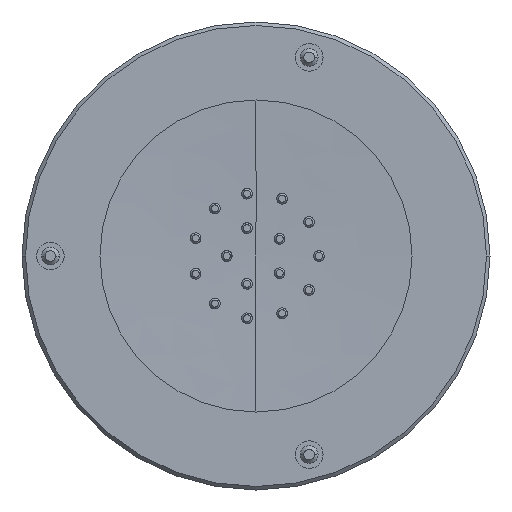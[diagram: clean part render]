
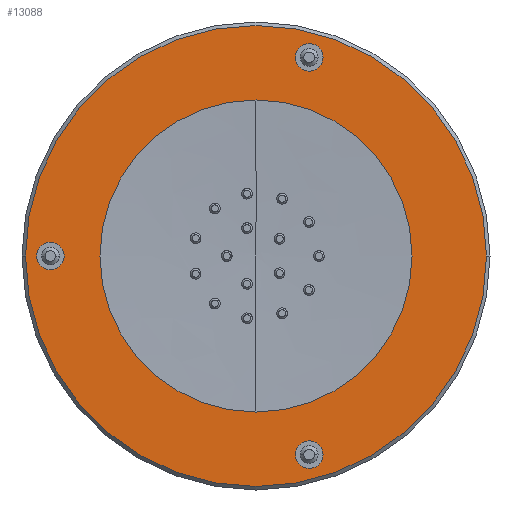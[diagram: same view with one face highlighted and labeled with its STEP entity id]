
A CAD part, left-side view. The second image highlights one B-rep face of the part: STEP entity #13088.
In plain terms, the highlighted planar face has unit normal (-1, 0, 0).
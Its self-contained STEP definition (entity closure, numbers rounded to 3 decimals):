
#104=CARTESIAN_POINT('',(-12.5,0.,0.));
#105=DIRECTION('',(1.,0.,0.));
#106=DIRECTION('',(0.,1.,0.));
#107=AXIS2_PLACEMENT_3D('',#104,#105,#106);
#109=CARTESIAN_POINT('',(-12.5,0.,0.));
#110=DIRECTION('',(1.,0.,0.));
#111=DIRECTION('',(0.,0.,1.));
#112=AXIS2_PLACEMENT_3D('',#109,#110,#111);
#114=CARTESIAN_POINT('',(-12.5,0.,0.));
#115=DIRECTION('',(1.,0.,0.));
#116=DIRECTION('',(0.,-1.,0.));
#117=AXIS2_PLACEMENT_3D('',#114,#115,#116);
#119=CARTESIAN_POINT('',(-12.5,0.,0.));
#120=DIRECTION('',(1.,0.,0.));
#121=DIRECTION('',(0.,0.,-1.));
#122=AXIS2_PLACEMENT_3D('',#119,#120,#121);
#124=CARTESIAN_POINT('',(-12.5,-1.501,5.602));
#125=DIRECTION('',(-1.,0.,0.));
#126=DIRECTION('',(0.,-1.,0.));
#127=AXIS2_PLACEMENT_3D('',#124,#125,#126);
#129=CARTESIAN_POINT('',(-12.5,-1.501,5.602));
#130=DIRECTION('',(-1.,0.,0.));
#131=DIRECTION('',(0.,1.,0.));
#132=AXIS2_PLACEMENT_3D('',#129,#130,#131);
#134=CARTESIAN_POINT('',(-12.5,-1.501,-5.602));
#135=DIRECTION('',(-1.,0.,0.));
#136=DIRECTION('',(0.,-1.,0.));
#137=AXIS2_PLACEMENT_3D('',#134,#135,#136);
#139=CARTESIAN_POINT('',(-12.5,-1.501,-5.602));
#140=DIRECTION('',(-1.,0.,0.));
#141=DIRECTION('',(0.,1.,0.));
#142=AXIS2_PLACEMENT_3D('',#139,#140,#141);
#144=CARTESIAN_POINT('',(-12.5,5.8,0.));
#145=DIRECTION('',(-1.,0.,0.));
#146=DIRECTION('',(0.,-1.,0.));
#147=AXIS2_PLACEMENT_3D('',#144,#145,#146);
#149=CARTESIAN_POINT('',(-12.5,5.8,0.));
#150=DIRECTION('',(-1.,0.,0.));
#151=DIRECTION('',(0.,1.,0.));
#152=AXIS2_PLACEMENT_3D('',#149,#150,#151);
#154=CARTESIAN_POINT('',(-12.5,0.,0.));
#155=DIRECTION('',(-1.,0.,0.));
#156=DIRECTION('',(0.,-1.,0.));
#157=AXIS2_PLACEMENT_3D('',#154,#155,#156);
#159=CARTESIAN_POINT('',(-12.5,0.,0.));
#160=DIRECTION('',(-1.,0.,0.));
#161=DIRECTION('',(0.,1.,0.));
#162=AXIS2_PLACEMENT_3D('',#159,#160,#161);
#11135=CARTESIAN_POINT('',(-12.5,6.19,0.));
#11136=CARTESIAN_POINT('',(-12.5,5.41,0.));
#11137=VERTEX_POINT('',#11135);
#11138=VERTEX_POINT('',#11136);
#11139=CARTESIAN_POINT('',(-12.5,0.,6.5));
#11140=CARTESIAN_POINT('',(-12.5,-6.5,0.));
#11141=VERTEX_POINT('',#11139);
#11142=VERTEX_POINT('',#11140);
#11143=CARTESIAN_POINT('',(-12.5,6.5,0.));
#11144=VERTEX_POINT('',#11143);
#11145=CARTESIAN_POINT('',(-12.5,0.,-6.5));
#11146=VERTEX_POINT('',#11145);
#11147=CARTESIAN_POINT('',(-12.5,-1.891,5.602));
#11148=CARTESIAN_POINT('',(-12.5,-1.111,5.602));
#11149=VERTEX_POINT('',#11147);
#11150=VERTEX_POINT('',#11148);
#11151=CARTESIAN_POINT('',(-12.5,-1.891,-5.602));
#11152=CARTESIAN_POINT('',(-12.5,-1.111,-5.602));
#11153=VERTEX_POINT('',#11151);
#11154=VERTEX_POINT('',#11152);
#11155=CARTESIAN_POINT('',(-12.5,-4.4,0.));
#11156=CARTESIAN_POINT('',(-12.5,4.4,0.));
#11157=VERTEX_POINT('',#11155);
#11158=VERTEX_POINT('',#11156);
#13050=CARTESIAN_POINT('',(-12.5,0.,0.));
#13051=DIRECTION('',(1.,0.,0.));
#13052=DIRECTION('',(0.,-1.,0.));
#13053=AXIS2_PLACEMENT_3D('',#13050,#13051,#13052);
#13054=PLANE('',#13053);
#13056=ORIENTED_EDGE('',*,*,#13055,.T.);
#13058=ORIENTED_EDGE('',*,*,#13057,.T.);
#13060=ORIENTED_EDGE('',*,*,#13059,.T.);
#13062=ORIENTED_EDGE('',*,*,#13061,.T.);
#13063=EDGE_LOOP('',(#13056,#13058,#13060,#13062));
#13064=FACE_OUTER_BOUND('',#13063,.F.);
#13066=ORIENTED_EDGE('',*,*,#13065,.T.);
#13068=ORIENTED_EDGE('',*,*,#13067,.T.);
#13069=EDGE_LOOP('',(#13066,#13068));
#13070=FACE_BOUND('',#13069,.F.);
#13072=ORIENTED_EDGE('',*,*,#13071,.T.);
#13074=ORIENTED_EDGE('',*,*,#13073,.T.);
#13075=EDGE_LOOP('',(#13072,#13074));
#13076=FACE_BOUND('',#13075,.F.);
#13078=ORIENTED_EDGE('',*,*,#13077,.T.);
#13079=ORIENTED_EDGE('',*,*,#13033,.T.);
#13080=EDGE_LOOP('',(#13078,#13079));
#13081=FACE_BOUND('',#13080,.F.);
#13083=ORIENTED_EDGE('',*,*,#13082,.T.);
#13085=ORIENTED_EDGE('',*,*,#13084,.T.);
#13086=EDGE_LOOP('',(#13083,#13085));
#13087=FACE_BOUND('',#13086,.F.);
#108=CIRCLE('',#107,6.5);
#113=CIRCLE('',#112,6.5);
#118=CIRCLE('',#117,6.5);
#123=CIRCLE('',#122,6.5);
#128=CIRCLE('',#127,0.39);
#133=CIRCLE('',#132,0.39);
#138=CIRCLE('',#137,0.39);
#143=CIRCLE('',#142,0.39);
#148=CIRCLE('',#147,0.39);
#153=CIRCLE('',#152,0.39);
#158=CIRCLE('',#157,4.4);
#163=CIRCLE('',#162,4.4);
#13033=EDGE_CURVE('',#11137,#11138,#153,.T.);
#13055=EDGE_CURVE('',#11144,#11141,#108,.T.);
#13057=EDGE_CURVE('',#11141,#11142,#113,.T.);
#13059=EDGE_CURVE('',#11142,#11146,#118,.T.);
#13061=EDGE_CURVE('',#11146,#11144,#123,.T.);
#13065=EDGE_CURVE('',#11149,#11150,#128,.T.);
#13067=EDGE_CURVE('',#11150,#11149,#133,.T.);
#13071=EDGE_CURVE('',#11153,#11154,#138,.T.);
#13073=EDGE_CURVE('',#11154,#11153,#143,.T.);
#13077=EDGE_CURVE('',#11138,#11137,#148,.T.);
#13082=EDGE_CURVE('',#11157,#11158,#158,.T.);
#13084=EDGE_CURVE('',#11158,#11157,#163,.T.);
#13088=ADVANCED_FACE('',(#13064,#13070,#13076,#13081,#13087),#13054,.F.);
